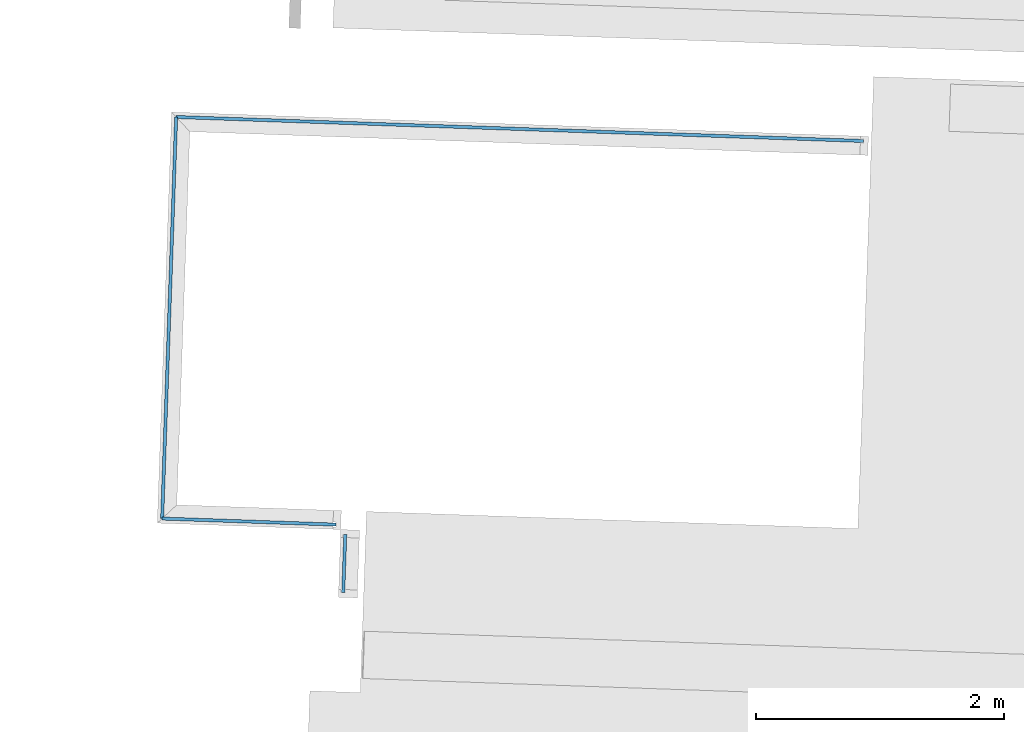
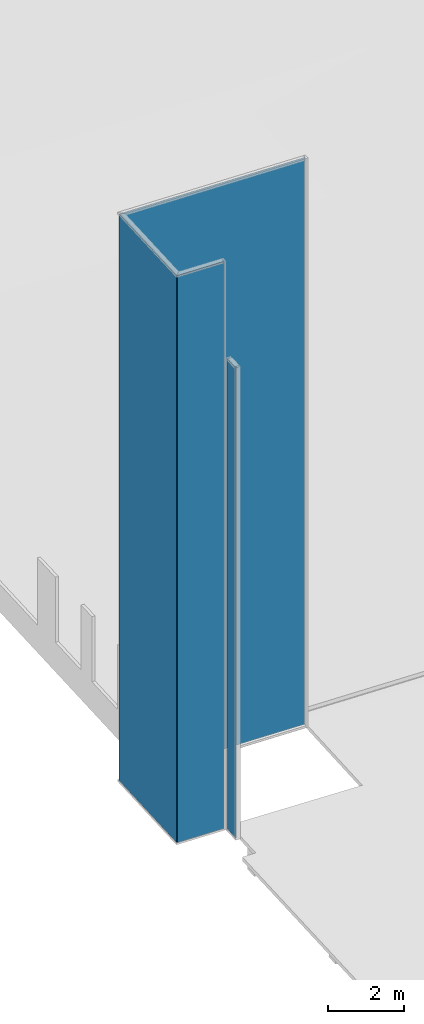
# One storey, part 8 of 17: 4 plates, 4 elements without a shape of their own.
"""IFC2X3 building model written with IfcOpenShell, lengths in feet."""

from ifc_helpers import new_model, entity, si_unit, converted_unit, derived_unit, direction, frame, origin, origin_2d_with_axis, place, context, subcontext, project, spatial, rectangle, extrude, source, transform, mapped, material, type_object, type_shapes, element, aggregate, save


model = new_model("IFC2X3")

# Units and contexts
model_context = context("Model", 3, precision=0.0001, world=origin(), true_north=direction((0.999390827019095, 0.0348994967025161)))
body_context = subcontext(model_context, "Body", "Model", "MODEL_VIEW")
ifc_project = project(units=[converted_unit("LENGTHUNIT", "FOOT", entity("IfcRatioMeasure", 0.3048), si_unit("LENGTHUNIT", "METRE"), dimensions=[1, 0, 0, 0, 0, 0, 0]), converted_unit("AREAUNIT", "SQUARE FOOT", entity("IfcRatioMeasure", 0.09290304), si_unit("AREAUNIT", "SQUARE_METRE"), dimensions=[2, 0, 0, 0, 0, 0, 0]), converted_unit("VOLUMEUNIT", "CUBIC FOOT", entity("IfcRatioMeasure", 0.028316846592), si_unit("VOLUMEUNIT", "CUBIC_METRE"), dimensions=[3, 0, 0, 0, 0, 0, 0]), converted_unit("PLANEANGLEUNIT", "DEGREE", entity("IfcRatioMeasure", 0.0174532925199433), si_unit("PLANEANGLEUNIT", "RADIAN"), dimensions=[0, 0, 0, 0, 0, 0, 0]), si_unit("MASSUNIT", "GRAM", prefix="KILO"), si_unit("TIMEUNIT", "SECOND"), si_unit("FREQUENCYUNIT", "HERTZ"), si_unit("THERMODYNAMICTEMPERATUREUNIT", "DEGREE_CELSIUS"), derived_unit("THERMALTRANSMITTANCEUNIT", [(si_unit("MASSUNIT", "GRAM", prefix="KILO"), 1), (si_unit("THERMODYNAMICTEMPERATUREUNIT", "KELVIN"), -1), (si_unit("TIMEUNIT", "SECOND"), -3)]), derived_unit("VOLUMETRICFLOWRATEUNIT", [(si_unit("LENGTHUNIT", "METRE"), 3), (si_unit("TIMEUNIT", "SECOND"), -1)]), si_unit("ELECTRICCURRENTUNIT", "AMPERE"), si_unit("ELECTRICVOLTAGEUNIT", "VOLT"), si_unit("POWERUNIT", "WATT"), si_unit("FORCEUNIT", "NEWTON"), si_unit("ILLUMINANCEUNIT", "LUX"), si_unit("LUMINOUSFLUXUNIT", "LUMEN"), si_unit("LUMINOUSINTENSITYUNIT", "CANDELA"), derived_unit("USERDEFINED", [(si_unit("MASSUNIT", "GRAM", prefix="KILO"), -1), (si_unit("LENGTHUNIT", "METRE"), -2), (si_unit("TIMEUNIT", "SECOND"), 3), (si_unit("LUMINOUSFLUXUNIT", "LUMEN"), 1)]), derived_unit("LINEARVELOCITYUNIT", [(si_unit("LENGTHUNIT", "METRE"), 1), (si_unit("TIMEUNIT", "SECOND"), -1)]), si_unit("PRESSUREUNIT", "PASCAL"), derived_unit("USERDEFINED", [(si_unit("LENGTHUNIT", "METRE"), -2), (si_unit("MASSUNIT", "GRAM", prefix="KILO"), 1), (si_unit("TIMEUNIT", "SECOND"), -2)])], contexts=[model_context])

# Site, building, storey
site_placement = place(None, frame((892.518771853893, 322.38689265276, 0.00393700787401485), z_axis=(0.0, 0.0, 1.0), x_axis=(0.0348994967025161, 0.999390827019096, 0.0)))
site = spatial("IfcSite", under=ifc_project, at=site_placement, Name="Default", CompositionType="ELEMENT")
building_placement = place(site_placement, origin())
building = spatial("IfcBuilding", under=site, at=building_placement, CompositionType="ELEMENT")
storey_placement = place(building_placement, frame((0.0, 0.0, 557.0)))
storey = spatial("IfcBuildingStorey", under=building, at=storey_placement, Name="Existing Garage - 1st Level", CompositionType="ELEMENT", Elevation=557.0)

# Curtain wall, plate
curtain_wall_type = type_object("IfcCurtainWallType", Name="Curtain Wall:(Existing) Curtainwall - Blank", PredefinedType="NOTDEFINED")
curtain_wall_1_placement = place(storey_placement, frame((0.0, 0.0, -557.0)))
curtain_wall_1 = element("IfcCurtainWall", 1, at=curtain_wall_1_placement, inside=storey, type_object=curtain_wall_type, Name="Curtain Wall:(Existing) Curtainwall - Blank", ObjectType="Curtain Wall:(Existing) Curtainwall - Blank")
ifc_material = material(Name="Glazing - Core & Shell Curtain Wall")
plate_type_1 = type_object("IfcPlateType", Name="1\" Insulated Clear Glass", PredefinedType="CURTAIN_PANEL", material=ifc_material)
shared_shape_1 = source(origin(), body_context, "Body", "SweptSolid", [
    extrude(rectangle(XDim=0.0833333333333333, YDim=18.1830625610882, at=origin_2d_with_axis()), frame((0.0, 0.0, 0.0), z_axis=(0.0, 0.0, 1.0), x_axis=(0.0, 1.0, 0.0)), (0.0, 0.0, 1.0), 59.9895833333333),
])
type_shapes(plate_type_1, [shared_shape_1])
plate_1_placement = place(curtain_wall_1_placement, frame((101.968963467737, 452.06825552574, 557.130208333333), z_axis=(0.0, 0.0, 1.0), x_axis=(0.0, 1.0, 0.0)))
plate_1 = element("IfcPlate", 2, at=plate_1_placement, type_object=plate_type_1, material=ifc_material, Name="System Panel:1\" Insulated Clear Glass", ObjectType="1\" Insulated Clear Glass", context=body_context, shape_type="MappedRepresentation", body=[
    mapped(shared_shape_1, transform((0.0, 0.0, 0.0), scale=1.0)),
])
aggregate(curtain_wall_1, [plate_1])

curtain_wall_2_placement = place(storey_placement, frame((0.0, 0.0, -557.0)))
curtain_wall_2 = element("IfcCurtainWall", 3, at=curtain_wall_2_placement, inside=storey, type_object=curtain_wall_type, Name="Curtain Wall:(Existing) Curtainwall - Blank", ObjectType="Curtain Wall:(Existing) Curtainwall - Blank")
plate_type_2 = type_object("IfcPlateType", Name="1\" Insulated Clear Glass", PredefinedType="CURTAIN_PANEL", material=ifc_material)
shared_shape_2 = source(origin(), body_context, "Body", "SweptSolid", [
    extrude(rectangle(XDim=0.0833333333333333, YDim=10.625, at=origin_2d_with_axis()), frame((0.0, 0.0, 0.0), z_axis=(0.0, 0.0, 1.0), x_axis=(0.0, 1.0, 0.0)), (0.0, 0.0, 1.0), 59.9895833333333),
])
type_shapes(plate_type_2, [shared_shape_2])
plate_2_placement = place(curtain_wall_2_placement, frame((96.6564634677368, 461.159786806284, 557.130208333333), z_axis=(0.0, 0.0, 1.0), x_axis=(-1.0, 0.0, 0.0)))
plate_2 = element("IfcPlate", 4, at=plate_2_placement, type_object=plate_type_2, material=ifc_material, Name="System Panel:1\" Insulated Clear Glass", ObjectType="1\" Insulated Clear Glass", context=body_context, shape_type="MappedRepresentation", body=[
    mapped(shared_shape_2, transform((0.0, 0.0, 0.0), scale=1.0)),
])
aggregate(curtain_wall_2, [plate_2])

curtain_wall_3_placement = place(storey_placement, frame((0.0, 0.0, -557.0)))
curtain_wall_3 = element("IfcCurtainWall", 5, at=curtain_wall_3_placement, inside=storey, type_object=curtain_wall_type, Name="Curtain Wall:(Existing) Curtainwall - Blank", ObjectType="Curtain Wall:(Existing) Curtainwall - Blank")
plate_type_3 = type_object("IfcPlateType", Name="1\" Insulated Clear Glass", PredefinedType="CURTAIN_PANEL", material=ifc_material)
shared_shape_3 = source(origin(), body_context, "Body", "SweptSolid", [
    extrude(rectangle(XDim=0.0833333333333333, YDim=4.59895833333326, at=origin_2d_with_axis()), frame((0.0, 0.0, 0.0), z_axis=(0.0, 0.0, 1.0), x_axis=(0.0, 1.0, 0.0)), (0.0, 0.0, 1.0), 59.9895833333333),
])
type_shapes(plate_type_3, [shared_shape_3])
plate_3_placement = place(curtain_wall_3_placement, frame((91.3439634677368, 458.860307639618, 557.130208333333), z_axis=(0.0, 0.0, 1.0), x_axis=(0.0, -1.0, 0.0)))
plate_3 = element("IfcPlate", 6, at=plate_3_placement, type_object=plate_type_3, material=ifc_material, Name="System Panel:1\" Insulated Clear Glass", ObjectType="1\" Insulated Clear Glass", context=body_context, shape_type="MappedRepresentation", body=[
    mapped(shared_shape_3, transform((0.0, 0.0, 0.0), scale=1.0)),
])
aggregate(curtain_wall_3, [plate_3])

curtain_wall_4_placement = place(storey_placement, frame((0.0, 0.0, -557.0)))
curtain_wall_4 = element("IfcCurtainWall", 7, at=curtain_wall_4_placement, inside=storey, type_object=curtain_wall_type, Name="Curtain Wall:(Existing) Curtainwall - Blank", ObjectType="Curtain Wall:(Existing) Curtainwall - Blank")
plate_type_4 = type_object("IfcPlateType", Name="1\" Insulated Clear Glass", PredefinedType="CURTAIN_PANEL", material=ifc_material)
shared_shape_4 = source(origin(), body_context, "Body", "SweptSolid", [
    extrude(rectangle(XDim=0.0833333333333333, YDim=1.53125000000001, at=origin_2d_with_axis()), frame((0.0, 0.0, 0.0), z_axis=(0.0, 0.0, 1.0), x_axis=(0.0, 1.0, 0.0)), (0.0, 0.0, 1.0), 49.7395833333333),
])
type_shapes(plate_type_4, [shared_shape_4])
plate_4_placement = place(curtain_wall_4_placement, frame((90.3231301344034, 456.305620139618, 557.130208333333)))
plate_4 = element("IfcPlate", 8, at=plate_4_placement, type_object=plate_type_4, material=ifc_material, Name="System Panel:1\" Insulated Clear Glass", ObjectType="1\" Insulated Clear Glass", context=body_context, shape_type="MappedRepresentation", body=[
    mapped(shared_shape_4, transform((0.0, 0.0, 0.0), scale=1.0)),
])
aggregate(curtain_wall_4, [plate_4])

save(model, "model.ifc")
